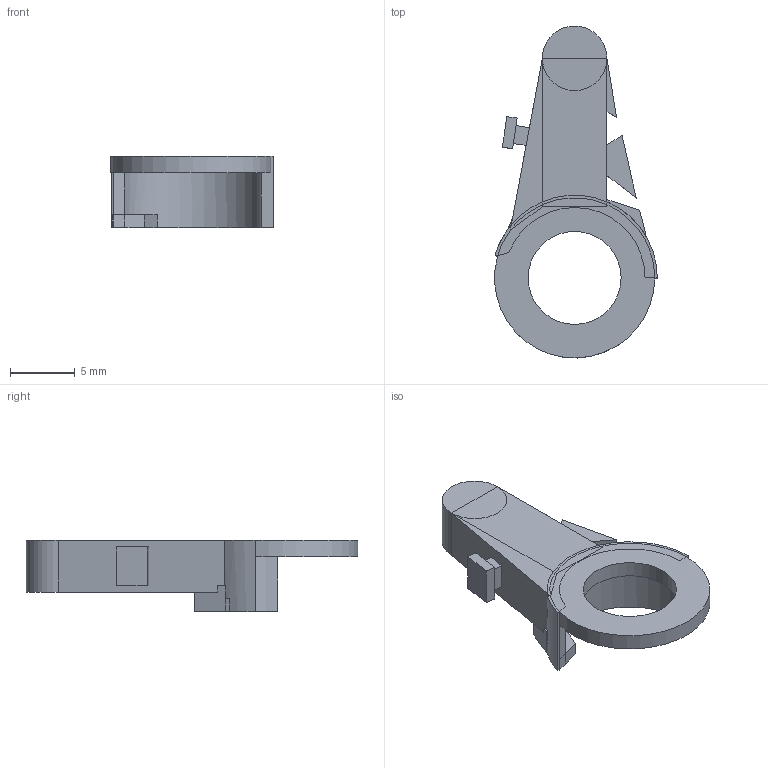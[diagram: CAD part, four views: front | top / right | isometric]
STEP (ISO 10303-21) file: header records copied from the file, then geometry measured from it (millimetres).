
FILE_DESCRIPTION(('FreeCAD Model'),'2;1');
FILE_NAME('/Users/alberto/Desktop/Dtto v2.0.1 STEP/013-1.step', '2017-05-29T11:49:19',('Author'),(''), 'Open CASCADE STEP processor 6.8','FreeCAD','Unknown');
FILE_SCHEMA(('AUTOMOTIVE_DESIGN_CC2 { 1 2 10303 214 -1 1 5 4 }'));
Length unit declared in the file: millimetre
Products named in the file (2): ASSEMBLY; Fusion101
Assembly tree (1 placements, depth 2):
  ASSEMBLY
    Fusion101
Bounding box: 12.59 x 25.7 x 5.5 mm (x, y, z)
Volume: 515.4 mm3; surface area: 718.7 mm2
Topology: 1 solids, 1 shells, 77 faces, 177 edges, 105 vertices
Faces by surface type: plane 71, cylinder 6
Full cylindrical faces by diameter (mm): 7.2 x1
Entity records: 4906 total; most frequent: CARTESIAN_POINT 850, DIRECTION 617, ORIENTED_EDGE 354, PCURVE 354, DEFINITIONAL_REPRESENTATION 354, LINE 353, VECTOR 353, EDGE_CURVE 177
